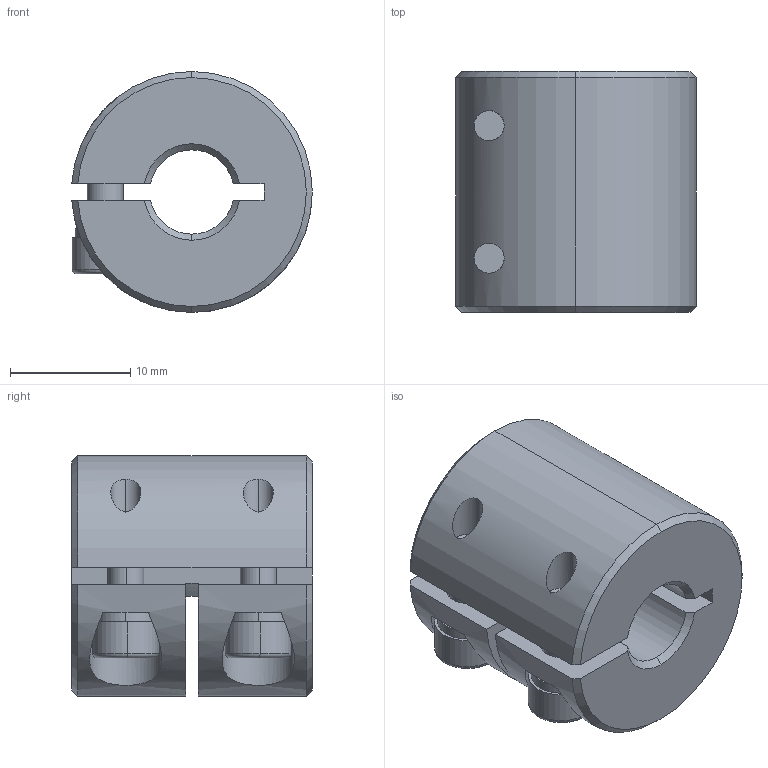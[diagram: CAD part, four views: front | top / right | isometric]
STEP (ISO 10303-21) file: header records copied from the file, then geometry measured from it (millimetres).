
FILE_DESCRIPTION (( 'STEP AP203' ), '1' );
FILE_NAME ('LL-B-D20L20-7-7.STEP', '2021-11-03T05:29:01', ( '' ), ( '' ), 'SwSTEP 2.0', 'SolidWorks 2018', '' );
FILE_SCHEMA (( 'CONFIG_CONTROL_DESIGN' ));
Length unit declared in the file: millimetre
Products named in the file (1): LL-B-D20L20-7-7
Bounding box: 19.98 x 20 x 20 mm (x, y, z)
Volume: 5045.4 mm3; surface area: 3115.7 mm2
Topology: 1 solids, 1 shells, 110 faces, 283 edges, 177 vertices
Faces by surface type: plane 51, cylinder 39, cone 16, torus 4
Entity records: 3593 total; most frequent: CARTESIAN_POINT 801, DIRECTION 594, ORIENTED_EDGE 558, EDGE_CURVE 279, AXIS2_PLACEMENT_3D 230, VERTEX_POINT 177, VECTOR 134, LINE 134
